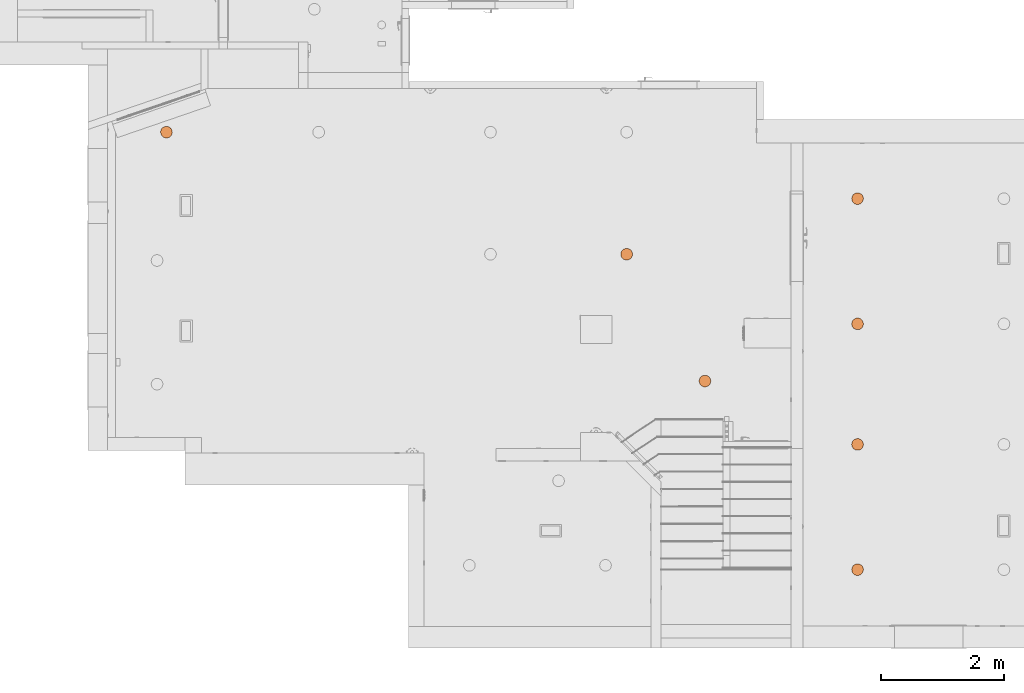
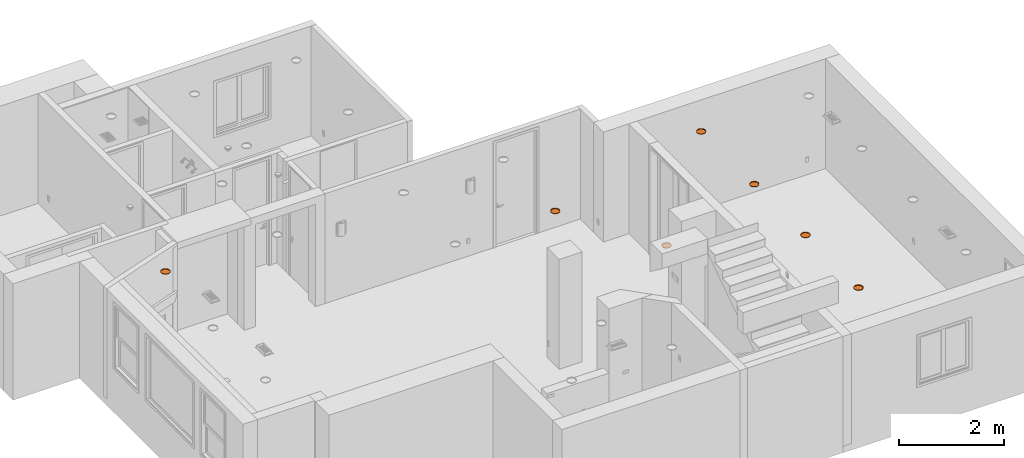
# One storey, part 28 of 48: 7 proxies.
"""IFC2X3 building model written with IfcOpenShell, lengths in inches."""

import ifcopenshell
import ifcopenshell.guid

model = None  # the IFC model being written
_history = None  # IfcOwnerHistory: only IFC2X3 demands one
_inside = {}  # id of a spatial element -> (the spatial element, [elements in it])
_under = {}  # id of a project, library or spatial element -> (it, [spatial elements below it])
_declared = {}  # id of a project -> (the project, [libraries it declares])
_typed = {}  # id of a type object -> (the type object, [elements of that type])
_made_of = {}  # id of a material, layer set ... -> (it, [elements and type objects made of it])


def new_model(schema):
    """Start an empty IFC model of exactly this schema.

    Asked for "IFC4X3", IfcOpenShell would pick the latest addendum, in which some entities
    have other attributes; the version numbers below select the first issue.
    IFC2X3 requires an IfcOwnerHistory on every rooted entity: one is made here for all.
    """
    global model, _history
    if schema == "IFC4X3":
        model = ifcopenshell.file(schema_version=(4, 3, 0, 0))
    else:
        model = ifcopenshell.file(schema=schema)
    _inside.clear()
    _under.clear()
    _declared.clear()
    _typed.clear()
    _made_of.clear()
    _history = None
    if model.schema == "IFC2X3":
        org = make("IfcOrganization", Name="unknown")
        user = make(
            "IfcPersonAndOrganization",
            ThePerson=make("IfcPerson", FamilyName="unknown"),
            TheOrganization=org,
        )
        app = make(
            "IfcApplication",
            ApplicationDeveloper=org,
            Version="unknown",
            ApplicationFullName="unknown",
            ApplicationIdentifier="unknown",
        )
        _history = make(
            "IfcOwnerHistory",
            OwningUser=user,
            OwningApplication=app,
            ChangeAction="ADDED",
            CreationDate=0,
        )
    return model


def make(cls, **values):
    """One entity of the class cls with the attributes given. An attribute that is None is left unset."""
    return model.create_entity(
        cls, **{name: value for name, value in values.items() if value is not None}
    )


def entity(cls, *values):
    """Any entity or typed value of the class cls, its attributes in the order of the schema. None: left unset."""
    e = model.create_entity(cls)
    for i, value in enumerate(values):
        if value is not None:
            e[i] = value
    return e


def rooted(cls, **values):
    """An entity with a GlobalId (a new one), such as an element, a storey or a relation."""
    return make(cls, GlobalId=ifcopenshell.guid.new(), OwnerHistory=_history, **values)


def si_unit(unit_type, name, prefix=None):
    """IfcSIUnit, for example si_unit("LENGTHUNIT", "METRE", prefix="MILLI")."""
    return make("IfcSIUnit", UnitType=unit_type, Prefix=prefix, Name=name)


def converted_unit(unit_type, name, factor, base, dimensions=None, offset=None):
    """IfcConversionBasedUnit, such as the inch: factor (a typed value) times the base unit."""
    return make(
        "IfcConversionBasedUnit"
        if offset is None
        else "IfcConversionBasedUnitWithOffset",
        ConversionOffset=offset,
        Dimensions=None
        if dimensions is None
        else entity("IfcDimensionalExponents", *dimensions),
        UnitType=unit_type,
        Name=name,
        ConversionFactor=make(
            "IfcMeasureWithUnit", ValueComponent=factor, UnitComponent=base
        ),
    )


def derived_unit(unit_type, elements):
    """IfcDerivedUnit: a product of units, each with its exponent."""
    return make(
        "IfcDerivedUnit",
        Elements=[
            make("IfcDerivedUnitElement", Unit=unit, Exponent=power)
            for unit, power in elements
        ],
        UnitType=unit_type,
    )


def money_unit(currency):
    """IfcMonetaryUnit."""
    return make("IfcMonetaryUnit", Currency=currency)


def assignment(units):
    """IfcUnitAssignment: the units of a project."""
    return None if units is None else make("IfcUnitAssignment", Units=units)


def point(xyz):
    """IfcCartesianPoint."""
    return None if xyz is None else make("IfcCartesianPoint", Coordinates=xyz)


def direction(xyz):
    """IfcDirection."""
    return None if xyz is None else make("IfcDirection", DirectionRatios=xyz)


def frame(location, z_axis=None, x_axis=None):
    """IfcAxis2Placement3D, a coordinate frame: its origin and axes. An axis left out is left unset."""
    return make(
        "IfcAxis2Placement3D",
        Location=point(location),
        Axis=direction(z_axis),
        RefDirection=direction(x_axis),
    )


def origin_with_axes():
    """The frame at (0, 0, 0) with the z axis (0, 0, 1) and the x axis (1, 0, 0) written out."""
    return frame((0.0, 0.0, 0.0), z_axis=(0.0, 0.0, 1.0), x_axis=(1.0, 0.0, 0.0))


def place(relative_to, where):
    """IfcLocalPlacement: puts the frame where relative to a parent placement (None: the world)."""
    return make(
        "IfcLocalPlacement", PlacementRelTo=relative_to, RelativePlacement=where
    )


def context(
    kind, dimensions, precision=None, world=None, true_north=None, identifier=None
):
    """IfcGeometricRepresentationContext, for example the 3D "Model" context."""
    return make(
        "IfcGeometricRepresentationContext",
        ContextIdentifier=identifier,
        ContextType=kind,
        CoordinateSpaceDimension=dimensions,
        Precision=precision,
        WorldCoordinateSystem=world,
        TrueNorth=true_north,
    )


def subcontext(parent, identifier, kind, view, scale=None):
    """IfcGeometricRepresentationSubContext, for example "Body" below "Model"."""
    return make(
        "IfcGeometricRepresentationSubContext",
        ContextIdentifier=identifier,
        ContextType=kind,
        ParentContext=parent,
        TargetScale=scale,
        TargetView=view,
    )


def project(units=None, contexts=None):
    """IfcProject with its units and contexts."""
    return rooted(
        "IfcProject",
        Name="project",
        RepresentationContexts=contexts,
        UnitsInContext=assignment(units),
    )


def spatial(cls, under=None, at=None, **own):
    """A site, building, storey or space (cls), placed at a placement, below another one or the project."""
    s = rooted(cls, ObjectPlacement=at, **own)
    if under is not None:
        _under.setdefault(under.id(), (under, []))[1].append(s)
    return s


def faces_of(points, faces, orient=None, outer=None):
    """IfcFace entities. A face is a list of loops; a loop is a list of indices into points, from 0.

    orient and outer hold one flag for each loop. By default every Orientation is true, the
    first loop of a face is its IfcFaceOuterBound and the others are IfcFaceBound.
    """
    made = []
    for i, loops in enumerate(faces):
        bounds = []
        for j, loop in enumerate(loops):
            is_outer = j == 0 if outer is None else outer[i][j]
            bounds.append(
                make(
                    "IfcFaceOuterBound" if is_outer else "IfcFaceBound",
                    Bound=make("IfcPolyLoop", Polygon=[points[k] for k in loop]),
                    Orientation=True if orient is None else orient[i][j],
                )
            )
        made.append(make("IfcFace", Bounds=bounds))
    return made


def open_shell(faces, orient=None, outer=None):
    """The faces of one IfcOpenShell. surface_model builds it on its shared points."""
    return ("IfcOpenShell", faces, orient, outer)


def faceted_brep(points, faces, orient=None, outer=None, voids=None):
    """IfcFacetedBrep: a solid bounded by flat faces; with voids (closed shells), ...WithVoids."""
    shared = [point(p) for p in points]
    hull = make("IfcClosedShell", CfsFaces=faces_of(shared, faces, orient, outer))
    if voids is None:
        return make("IfcFacetedBrep", Outer=hull)
    return make(
        "IfcFacetedBrepWithVoids",
        Outer=hull,
        Voids=[
            make(cls, CfsFaces=faces_of(shared, fs, o, b)) for cls, fs, o, b in voids
        ],
    )


def surface_model(cls, points, shells):
    """IfcFaceBasedSurfaceModel or IfcShellBasedSurfaceModel (cls): surfaces that need not close."""
    shared = [point(p) for p in points]
    made = [make(c, CfsFaces=faces_of(shared, fs, o, b)) for c, fs, o, b in shells]
    if cls == "IfcFaceBasedSurfaceModel":
        return make(cls, FbsmFaces=made)
    return make(cls, SbsmBoundary=made)


def shape(context_of_items, identifier, shape_type, items):
    """IfcShapeRepresentation: the items that make up one representation, for example the "Body"."""
    return make(
        "IfcShapeRepresentation",
        ContextOfItems=context_of_items,
        RepresentationIdentifier=identifier,
        RepresentationType=shape_type,
        Items=items,
    )


def source(mapping_origin, context_of_items, identifier, shape_type, items):
    """IfcRepresentationMap: a shape defined once, which mapped items show again and again."""
    return make(
        "IfcRepresentationMap",
        MappingOrigin=mapping_origin,
        MappedRepresentation=shape(context_of_items, identifier, shape_type, items),
    )


def transform(
    local_origin,
    x_axis=None,
    y_axis=None,
    z_axis=None,
    scale=None,
    scale2=None,
    scale3=None,
    uniform=True,
):
    """IfcCartesianTransformationOperator3D, or its non-uniform kind. x_axis, y_axis, z_axis: its Axis1, 2, 3."""
    if uniform:
        return make(
            "IfcCartesianTransformationOperator3D",
            Axis1=direction(x_axis),
            Axis2=direction(y_axis),
            LocalOrigin=point(local_origin),
            Scale=scale,
            Axis3=direction(z_axis),
        )
    return make(
        "IfcCartesianTransformationOperator3DnonUniform",
        Axis1=direction(x_axis),
        Axis2=direction(y_axis),
        LocalOrigin=point(local_origin),
        Scale=scale,
        Axis3=direction(z_axis),
        Scale2=scale2,
        Scale3=scale3,
    )


def mapped(mapping_source, mapping_target):
    """IfcMappedItem: shows the shape of a source again, moved by a transform."""
    return make(
        "IfcMappedItem", MappingSource=mapping_source, MappingTarget=mapping_target
    )


def made_of(thing, what):
    """Note that an element or type object is made of a material, layer set ...; save() writes the relation."""
    if what is not None:
        _made_of.setdefault(what.id(), (what, []))[1].append(thing)
    return thing


def type_object(cls, material=None, **own):
    """A type object (cls), such as IfcWallType, which elements share."""
    return made_of(rooted(cls, **own), material)


def element(
    cls,
    number,
    at=None,
    inside=None,
    cuts=None,
    type_object=None,
    material=None,
    context=None,
    identifier="Body",
    shape_type=None,
    held_by="IfcProductDefinitionShape",
    body=None,
    shapes=None,
    **own,
):
    """One element of the class cls, such as IfcWall. Its Tag is "e" and its number.

    at: its placement. inside: the storey or other place that contains it. cuts: it is an
    opening in that element (IfcRelVoidsElement). A single representation is given by context,
    identifier, shape_type and body (its items); several are given by shapes. held_by: the class
    of the entity that holds the representations. save() writes the other relations.
    """
    e = rooted(cls, Tag="e%d" % number, ObjectPlacement=at, **own)
    if body is not None:
        shapes = [shape(context, identifier, shape_type, body)]
    if shapes is not None:
        e.Representation = make(held_by, Representations=shapes)
    if inside is not None:
        _inside.setdefault(inside.id(), (inside, []))[1].append(e)
    if cuts is not None:
        rooted(
            "IfcRelVoidsElement", RelatingBuildingElement=cuts, RelatedOpeningElement=e
        )
    if type_object is not None:
        _typed.setdefault(type_object.id(), (type_object, []))[1].append(e)
    return made_of(e, material)


def aggregate(whole, parts):
    """IfcRelAggregates: a whole, such as a stair, and the parts it consists of."""
    return rooted("IfcRelAggregates", RelatingObject=whole, RelatedObjects=parts)


def save(model, path):
    """Write the relations noted so far, then the file.

    IfcRelAggregates (storeys below a building ...), IfcRelContainedInSpatialStructure (elements
    in a storey), IfcRelDefinesByType, IfcRelAssociatesMaterial and IfcRelDeclares: one each for
    every whole, place, type object, material and project.
    """
    for whole, parts in _under.values():
        aggregate(whole, parts)
    for where, things in _inside.values():
        rooted(
            "IfcRelContainedInSpatialStructure",
            RelatedElements=things,
            RelatingStructure=where,
        )
    for kind, things in _typed.values():
        rooted("IfcRelDefinesByType", RelatedObjects=things, RelatingType=kind)
    for what, things in _made_of.values():
        rooted("IfcRelAssociatesMaterial", RelatedObjects=things, RelatingMaterial=what)
    for by, libraries in _declared.values():
        rooted("IfcRelDeclares", RelatingContext=by, RelatedDefinitions=libraries)
    model.write(path)


model = new_model("IFC2X3")

# Units and contexts
model_context = context("Model", 3, precision=0.00039370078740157, world=origin_with_axes(), true_north=direction((0.0, 1.0)))
plan_context = context("Plan", 3, precision=0.00039370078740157, world=origin_with_axes(), true_north=direction((0.0, 1.0)))
body_context = subcontext(model_context, "Body", "Model", "MODEL_VIEW")
ifc_project = project(units=[converted_unit("LENGTHUNIT", "INCH", entity("IfcPositiveLengthMeasure", 0.0254), si_unit("LENGTHUNIT", "METRE"), dimensions=[1, 0, 0, 0, 0, 0, 0]), converted_unit("AREAUNIT", "SQUARE_FOOT", entity("IfcPositiveLengthMeasure", 0.09290304), si_unit("AREAUNIT", "SQUARE_METRE"), dimensions=[2, 0, 0, 0, 0, 0, 0]), si_unit("PLANEANGLEUNIT", "RADIAN"), si_unit("SOLIDANGLEUNIT", "STERADIAN"), money_unit("USD"), converted_unit("TIMEUNIT", "Year", entity("IfcTimeMeasure", 31557600.0), si_unit("TIMEUNIT", "SECOND"), dimensions=[0, 0, 1, 0, 0, 0, 0]), si_unit("MASSUNIT", "GRAM", prefix="KILO"), si_unit("THERMODYNAMICTEMPERATUREUNIT", "DEGREE_CELSIUS"), si_unit("LUMINOUSINTENSITYUNIT", "LUMEN"), si_unit("ENERGYUNIT", "JOULE", prefix="MEGA"), derived_unit("SPECIFICHEATCAPACITYUNIT", [(si_unit("ENERGYUNIT", "JOULE"), 1), (si_unit("MASSUNIT", "GRAM", prefix="KILO"), -1), (si_unit("THERMODYNAMICTEMPERATUREUNIT", "KELVIN"), -1)])], contexts=[model_context, plan_context])

# Site, building, storey
site_placement = place(None, origin_with_axes())
site = spatial("IfcSite", under=ifc_project, at=site_placement, Name="Site", CompositionType="ELEMENT")
building_placement = place(site_placement, origin_with_axes())
building = spatial("IfcBuilding", under=site, at=building_placement, Name="Building", CompositionType="ELEMENT")
storey_placement = place(building_placement, origin_with_axes())
storey = spatial("IfcBuildingStorey", under=building, at=storey_placement, Name="First Floor", CompositionType="ELEMENT", Elevation=0.0)

# Proxies
building_element_proxy_type = type_object("IfcBuildingElementProxyType", Name="Recessed Spot", PredefinedType="NOTDEFINED")
shared_shape = source(origin_with_axes(), body_context, "Body", "SurfaceModel", [
    faceted_brep([(3.749999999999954, 0.0, -0.4999999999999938), (3.523847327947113, 1.282575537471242, -0.4999999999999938), (3.523847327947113, 1.282575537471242, 0.0), (3.749999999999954, 0.0, 0.0), (3.523847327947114, -1.282575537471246, -0.4999999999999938), (2.872666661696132, -2.410453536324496, -0.4999999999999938), (1.874999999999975, -3.247595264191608, -0.4999999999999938), (0.6511806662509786, -3.693029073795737, -0.4999999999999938), (-0.6511806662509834, -3.693029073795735, -0.4999999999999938), (-1.87499999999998, -3.247595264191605, -0.4999999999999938), (-2.872666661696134, -2.410453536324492, -0.4999999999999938), (-3.523847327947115, -1.282575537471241, -0.4999999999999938), (-3.749999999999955, 0.0, -0.4999999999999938), (-3.523847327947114, 1.282575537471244, -0.4999999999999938), (-2.872666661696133, 2.410453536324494, -0.4999999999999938), (-1.874999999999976, 3.247595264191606, -0.4999999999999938), (-0.6511806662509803, 3.693029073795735, -0.4999999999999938), (0.6511806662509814, 3.693029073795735, -0.4999999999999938), (1.874999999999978, 3.247595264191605, -0.4999999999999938), (2.872666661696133, 2.410453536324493, -0.4999999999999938), (3.24999999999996, 0.0, -0.4999999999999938), (3.054001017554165, 1.11156546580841, -0.4999999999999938), (2.489644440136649, 2.089059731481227, -0.4999999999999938), (1.62499999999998, 2.814582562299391, -0.4999999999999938), (0.5643565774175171, 3.200625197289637, -0.4999999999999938), (-0.5643565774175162, 3.200625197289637, -0.4999999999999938), (-1.62499999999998, 2.814582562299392, -0.4999999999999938), (-2.489644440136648, 2.089059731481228, -0.4999999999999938), (-3.054001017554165, 1.111565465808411, -0.4999999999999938), (-3.24999999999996, 0.0, -0.4999999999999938), (-3.054001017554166, -1.111565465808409, -0.4999999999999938), (-2.48964444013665, -2.089059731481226, -0.4999999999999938), (-1.624999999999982, -2.814582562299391, -0.4999999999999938), (-0.5643565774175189, -3.200625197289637, -0.4999999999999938), (0.5643565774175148, -3.200625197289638, -0.4999999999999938), (1.624999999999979, -2.814582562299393, -0.4999999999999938), (2.489644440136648, -2.08905973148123, -0.4999999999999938), (3.054001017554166, -1.111565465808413, -0.4999999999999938), (2.872666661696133, 2.410453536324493, 0.0), (1.874999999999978, 3.247595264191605, 0.0), (0.6511806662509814, 3.693029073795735, 0.0), (-0.6511806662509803, 3.693029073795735, 0.0), (-1.874999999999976, 3.247595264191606, 0.0), (-2.872666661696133, 2.410453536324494, 0.0), (-3.523847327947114, 1.282575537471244, 0.0), (-3.749999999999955, 0.0, 0.0), (-3.523847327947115, -1.282575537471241, 0.0), (-2.872666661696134, -2.410453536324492, 0.0), (-1.87499999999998, -3.247595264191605, 0.0), (-0.6511806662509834, -3.693029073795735, 0.0), (0.6511806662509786, -3.693029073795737, 0.0), (1.874999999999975, -3.247595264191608, 0.0), (2.872666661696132, -2.410453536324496, 0.0), (3.523847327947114, -1.282575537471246, 0.0), (3.24999999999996, 0.0, 0.0), (3.054001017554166, -1.111565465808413, 0.0), (2.489644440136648, -2.08905973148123, 0.0), (1.624999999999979, -2.814582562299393, 0.0), (0.5643565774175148, -3.200625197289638, 0.0), (-0.5643565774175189, -3.200625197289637, 0.0), (-1.624999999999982, -2.814582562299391, 0.0), (-2.48964444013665, -2.089059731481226, 0.0), (-3.054001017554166, -1.111565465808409, 0.0), (-3.24999999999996, 0.0, 0.0), (-3.054001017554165, 1.111565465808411, 0.0), (-2.489644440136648, 2.089059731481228, 0.0), (-1.62499999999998, 2.814582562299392, 0.0), (-0.5643565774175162, 3.200625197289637, 0.0), (0.5643565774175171, 3.200625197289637, 0.0), (1.62499999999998, 2.814582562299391, 0.0), (2.489644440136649, 2.089059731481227, 0.0), (3.054001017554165, 1.11156546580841, 0.0)], [[[0, 1, 2, 3]], [[0, 4, 5, 6, 7, 8, 9, 10, 11, 12, 13, 14, 15, 16, 17, 18, 19, 1], [20, 21, 22, 23, 24, 25, 26, 27, 28, 29, 30, 31, 32, 33, 34, 35, 36, 37]], [[1, 19, 38, 2]], [[3, 2, 38, 39, 40, 41, 42, 43, 44, 45, 46, 47, 48, 49, 50, 51, 52, 53], [54, 55, 56, 57, 58, 59, 60, 61, 62, 63, 64, 65, 66, 67, 68, 69, 70, 71]], [[4, 0, 3, 53]], [[5, 4, 53, 52]], [[6, 5, 52, 51]], [[7, 6, 51, 50]], [[8, 7, 50, 49]], [[9, 8, 49, 48]], [[10, 9, 48, 47]], [[11, 10, 47, 46]], [[12, 11, 46, 45]], [[13, 12, 45, 44]], [[14, 13, 44, 43]], [[15, 14, 43, 42]], [[16, 15, 42, 41]], [[17, 16, 41, 40]], [[18, 17, 40, 39]], [[19, 18, 39, 38]], [[21, 20, 54, 71]], [[22, 21, 71, 70]], [[23, 22, 70, 69]], [[24, 23, 69, 68]], [[25, 24, 68, 67]], [[26, 25, 67, 66]], [[27, 26, 66, 65]], [[28, 27, 65, 64]], [[29, 28, 64, 63]], [[30, 29, 63, 62]], [[31, 30, 62, 61]], [[32, 31, 61, 60]], [[33, 32, 60, 59]], [[34, 33, 59, 58]], [[35, 34, 58, 57]], [[36, 35, 57, 56]], [[37, 36, 56, 55]], [[20, 37, 55, 54]]]),
    surface_model("IfcShellBasedSurfaceModel", [(3.24999999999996, 0.0, -0.4460629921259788), (3.054001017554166, -1.111565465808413, -0.4460629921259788), (2.489644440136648, -2.08905973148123, -0.4460629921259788), (1.624999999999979, -2.814582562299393, -0.4460629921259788), (0.5643565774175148, -3.200625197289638, -0.4460629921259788), (-0.5643565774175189, -3.200625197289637, -0.4460629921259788), (-1.624999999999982, -2.814582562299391, -0.4460629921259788), (-2.48964444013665, -2.089059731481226, -0.4460629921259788), (-3.054001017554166, -1.111565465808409, -0.4460629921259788), (-3.24999999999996, 0.0, -0.4460629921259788), (-3.054001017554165, 1.111565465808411, -0.4460629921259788), (-2.489644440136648, 2.089059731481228, -0.4460629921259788), (-1.62499999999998, 2.814582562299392, -0.4460629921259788), (-0.5643565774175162, 3.200625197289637, -0.4460629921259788), (0.5643565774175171, 3.200625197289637, -0.4460629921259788), (1.62499999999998, 2.814582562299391, -0.4460629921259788), (2.489644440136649, 2.089059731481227, -0.4460629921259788), (3.054001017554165, 1.11156546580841, -0.4460629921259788)], [open_shell([[[0, 1, 2, 3, 4, 5, 6, 7, 8, 9, 10, 11, 12, 13, 14, 15, 16, 17]]])]),
])
for number, where, z_axis, x_axis, name in (
    (1, (286.999999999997, 206.9999999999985, 100.9999999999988), (0.0, 0.0, 1.0), (1.0, 0.0, 0.0), "L-03"),
    (2, (286.999999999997, 286.9999999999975, 100.9999999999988), (0.0, 0.0, 1.0), (1.0, 0.0, 0.0), "L-03"),
    (3, (286.999999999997, 129.9999999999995, 100.9999999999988), (0.0, 0.0, 1.0), (1.0, 0.0, 0.0), "L-03"),
    (4, (-154.4999999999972, 329.4999999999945, 100.9999999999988), (0.0, 0.0, 1.0), (1.0, 0.0, 0.0), "L-03"),
    (5, (286.999999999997, 50.00000000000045, 100.9999999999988), (0.0, 0.0, 1.0), (1.0, 0.0, 0.0), "L-03"),
    (6, (189.4999999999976, 170.5000000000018, 100.9999999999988), (0.0, 0.0, 1.0), (1.0, 0.0, 0.0), "L-03"),
    (7, (139.4999999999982, 251.5000000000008, 100.9999999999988), (0.0, 0.0, 1.0), (1.0, 0.0, 0.0), "L-03"),
):
    element("IfcBuildingElementProxy", number, at=place(storey_placement, frame(where, z_axis=z_axis, x_axis=x_axis)), inside=storey, type_object=building_element_proxy_type, Name=name, context=body_context, shape_type="MappedRepresentation", body=[
        mapped(shared_shape, transform((0.0, 0.0, 0.0))),
    ])

save(model, "model.ifc")
